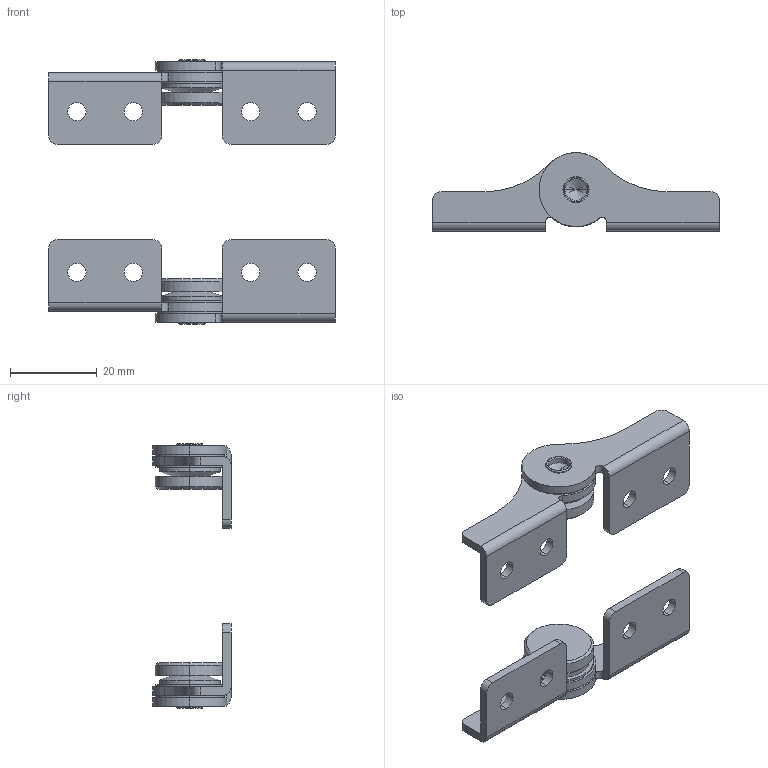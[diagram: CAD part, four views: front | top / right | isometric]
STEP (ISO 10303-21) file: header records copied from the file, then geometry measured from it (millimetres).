
FILE_DESCRIPTION (( 'STEP AP203' ), '1' );
FILE_NAME ('XG11-008-1.STEP', '2023-12-04T06:09:21', ( '' ), ( '' ), 'SwSTEP 2.0', 'SolidWorks 2020', '' );
FILE_SCHEMA (( 'CONFIG_CONTROL_DESIGN' ));
Length unit declared in the file: millimetre
Products named in the file (1): XG11-008-1
Bounding box: 66 x 17.99 x 61 mm (x, y, z)
Volume: 8819.5 mm3; surface area: 11572.9 mm2
Topology: 12 solids, 12 shells, 162 faces, 390 edges, 250 vertices
Faces by surface type: cylinder 94, plane 48, cone 12, torus 8
Entity records: 4899 total; most frequent: DIRECTION 918, CARTESIAN_POINT 813, ORIENTED_EDGE 772, EDGE_CURVE 386, AXIS2_PLACEMENT_3D 371, VERTEX_POINT 250, CIRCLE 208, EDGE_LOOP 200
